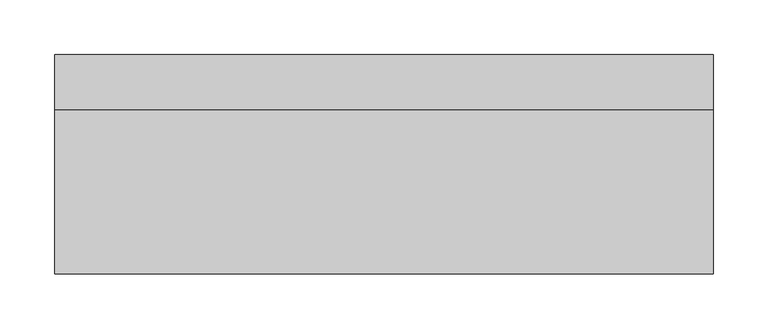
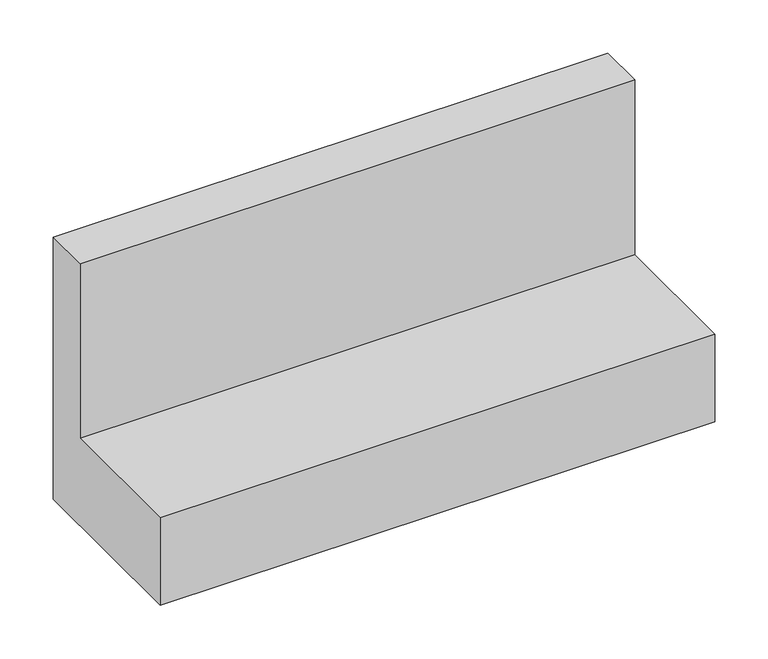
"""IFC4 building model written with IfcOpenShell, lengths in millimetres: proxy geometry, Módulo L de Concreto Celular - Celucon : MLCC 20x30x60cm (L x A x C)."""

from ifc_helpers import new_model, si_unit, frame, origin, place, context, project, spatial, polyline, outline, extrude, source, transform, mapped, element, save


def generic_models_afc9f97a(model_context):
    return source(origin(), model_context, "Body", "SweptSolid", [
        extrude(outline(polyline([(100.0, 0.0), (-100.0, 0.0), (-100.0, 100.0), (50.0, 100.0), (50.0, 300.0), (100.0, 300.0), (100.0, 0.0)])), frame((-300.0, 0.0, 0.0), z_axis=(1.0, 0.0, 0.0), x_axis=(0.0, 1.0, 0.0)), (0.0, 0.0, 1.0), 600.0),
    ])


if __name__ == "__main__":
    model = new_model("IFC4")
    model_context = context("Model", 3, world=origin())
    ifc_project = project(units=[si_unit("LENGTHUNIT", "METRE", prefix="MILLI")], contexts=[model_context])
    site = spatial("IfcSite", under=ifc_project)
    building = spatial("IfcBuilding", under=site)
    placement = place(None, origin())
    generic_models_shape = generic_models_afc9f97a(model_context)
    element("IfcBuildingElementProxy", 1, Name="Módulo L de Concreto Celular - Celucon : MLCC 20x30x60cm (L x A x C)", ObjectType="Módulo L de Concreto Celular - Celucon : MLCC 20x30x60cm (L x A x C)", at=placement, inside=building, context=model_context, shape_type="MappedRepresentation", body=[
        mapped(generic_models_shape, transform((0.0, 0.0, 0.0), x_axis=(1.0, 0.0, 0.0), y_axis=(0.0, 1.0, 0.0), z_axis=(0.0, 0.0, 1.0))),
    ])
    save(model, "model.ifc")
